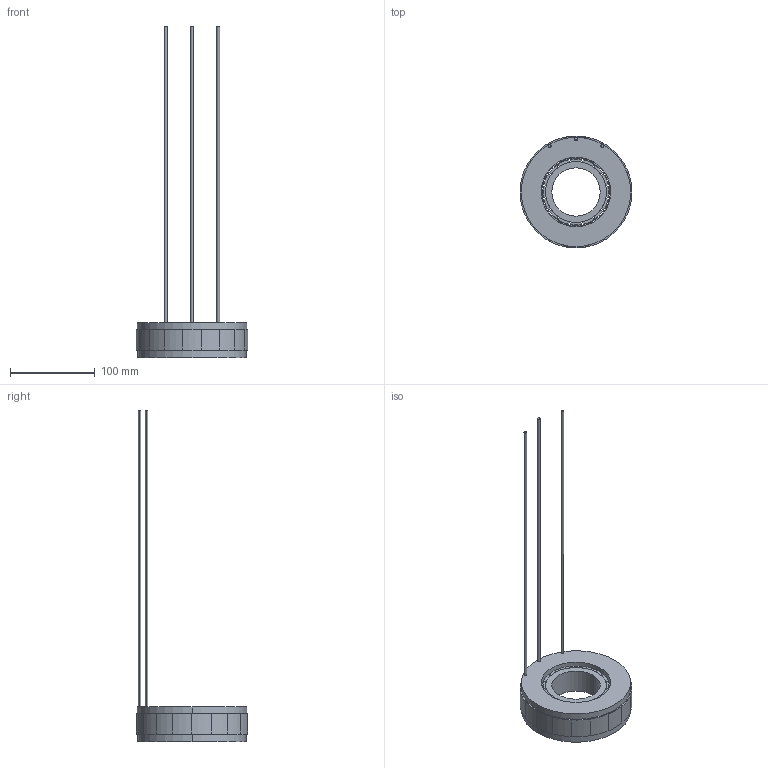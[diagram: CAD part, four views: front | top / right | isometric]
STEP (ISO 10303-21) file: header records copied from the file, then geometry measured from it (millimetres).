
FILE_DESCRIPTION (( 'STEP AP203' ), '1' );
FILE_NAME ('307050034SS（SMR132-11832D16ENL-21）-V02.STEP', '2022-12-08T11:30:26', ( 'muse' ), ( 'muse' ), 'SwSTEP 2.0', 'SolidWorks 2022', '' );
FILE_SCHEMA (( 'CONFIG_CONTROL_DESIGN' ));
Length unit declared in the file: millimetre
Products named in the file (5): 130线包; 磁钢; 130L30-12Z(B35W300); 307050034SS（SMR132-11832D16ENL-21）-V02; 转子铁芯
Assembly tree (36 placements, depth 2):
  307050034SS（SMR132-11832D16ENL-21）-V02
    130L30-12Z(B35W300)  x18
    130线包
    转子铁芯
    磁钢  x16
Bounding box: 132 x 131.78 x 391.1 mm (x, y, z)
Volume: 325060 mm3; surface area: 141372.7 mm2
Topology: 40 solids, 40 shells, 558 faces, 1434 edges, 956 vertices
Faces by surface type: plane 364, cylinder 194
Entity records: 3223 total; most frequent: DIRECTION 386, CARTESIAN_POINT 319, ORIENTED_EDGE 264, AXIS2_PLACEMENT_3D 155, EDGE_CURVE 132, COORDINATED_UNIVERSAL_TIME_OFFSET 97, LOCAL_TIME 97, DATE_AND_TIME 97
